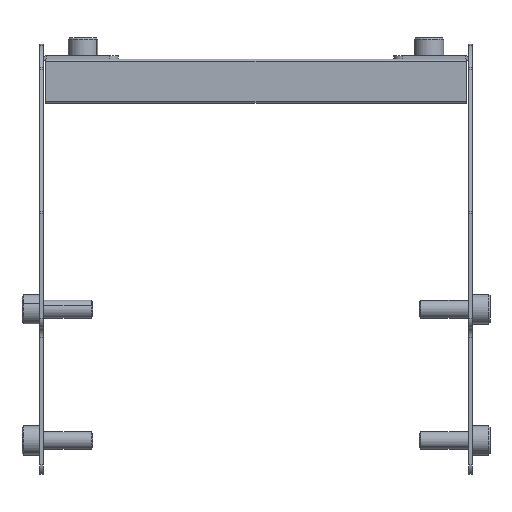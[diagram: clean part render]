
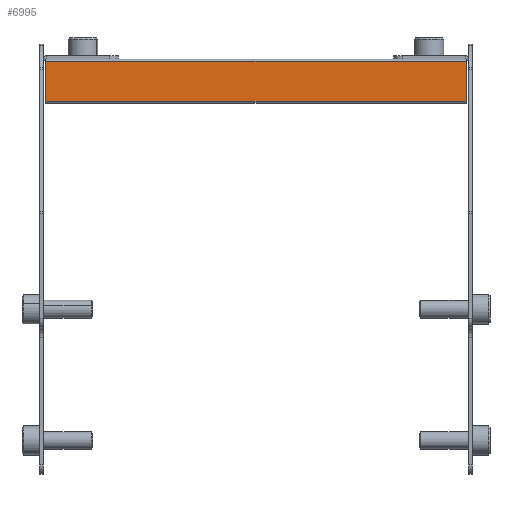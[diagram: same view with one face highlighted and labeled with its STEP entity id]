
A CAD part, front view. The second image highlights one B-rep face of the part: STEP entity #6995.
In plain terms, the highlighted planar face has unit normal (0, -1, 0) as drawn and (1, 0, 0) by its records, which use the part's own axes.
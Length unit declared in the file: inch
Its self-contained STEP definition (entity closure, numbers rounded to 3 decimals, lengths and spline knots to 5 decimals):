
#5349=DIRECTION('',(0.,-1.,0.));
#5350=VECTOR('',#5349,0.53055);
#5351=CARTESIAN_POINT('',(0.78127,0.26528,-2.80675));
#5352=LINE('',#5351,#5350);
#6017=DIRECTION('',(0.,0.,-1.));
#6018=VECTOR('',#6017,5.6135);
#6019=CARTESIAN_POINT('',(0.78127,0.26528,2.80675));
#6020=LINE('',#6019,#6018);
#6021=DIRECTION('',(0.,-1.,0.));
#6022=VECTOR('',#6021,0.53055);
#6023=CARTESIAN_POINT('',(0.78127,0.26528,2.80675));
#6024=LINE('',#6023,#6022);
#6025=DIRECTION('',(0.,0.,1.));
#6026=VECTOR('',#6025,5.6135);
#6027=CARTESIAN_POINT('',(0.78127,-0.26528,-2.80675));
#6028=LINE('',#6027,#6026);
#6339=CARTESIAN_POINT('',(0.78127,-0.26528,-2.80675));
#6341=VERTEX_POINT('',#6339);
#6488=CARTESIAN_POINT('',(0.78127,0.26528,2.80675));
#6489=CARTESIAN_POINT('',(0.78127,-0.26528,2.80675));
#6490=VERTEX_POINT('',#6488);
#6491=VERTEX_POINT('',#6489);
#6554=CARTESIAN_POINT('',(0.78127,0.26528,-2.80675));
#6555=VERTEX_POINT('',#6554);
#6983=CARTESIAN_POINT('',(0.78127,0.29528,2.80675));
#6984=DIRECTION('',(-1.,0.,0.));
#6985=DIRECTION('',(0.,0.,1.));
#6986=AXIS2_PLACEMENT_3D('',#6983,#6984,#6985);
#6987=PLANE('',#6986);
#6988=ORIENTED_EDGE('',*,*,#6784,.F.);
#6989=ORIENTED_EDGE('',*,*,#6978,.T.);
#6990=ORIENTED_EDGE('',*,*,#6635,.T.);
#6992=ORIENTED_EDGE('',*,*,#6991,.T.);
#6993=EDGE_LOOP('',(#6988,#6989,#6990,#6992));
#6994=FACE_OUTER_BOUND('',#6993,.F.);
#6635=EDGE_CURVE('',#6555,#6341,#5352,.T.);
#6784=EDGE_CURVE('',#6490,#6491,#6024,.T.);
#6978=EDGE_CURVE('',#6490,#6555,#6020,.T.);
#6991=EDGE_CURVE('',#6341,#6491,#6028,.T.);
#6995=ADVANCED_FACE('',(#6994),#6987,.F.);
